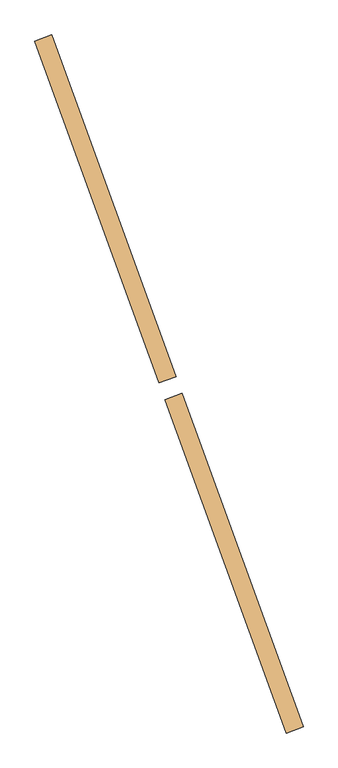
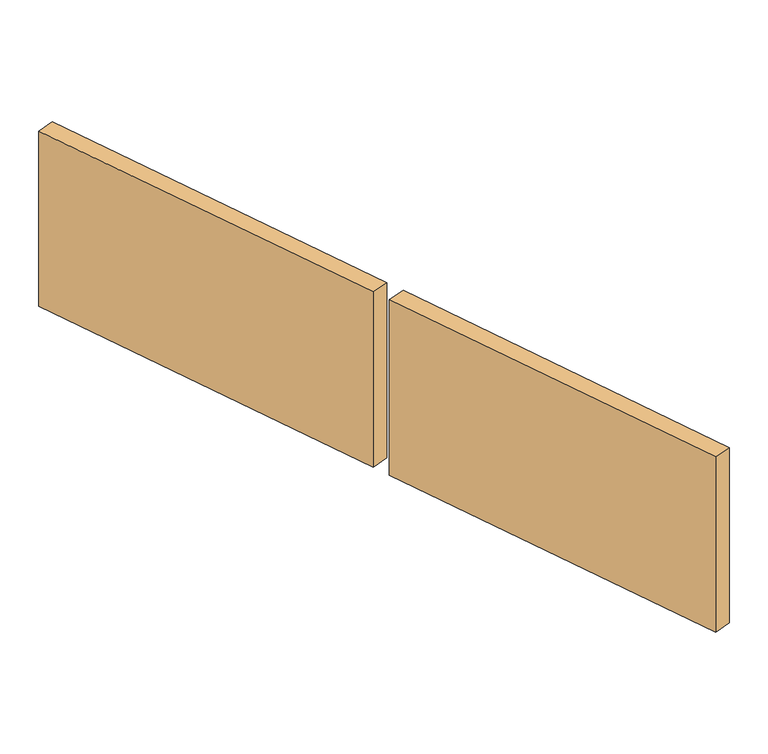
"""IFC4 building model written with IfcOpenShell, lengths in millimetres: door geometry, brystning ytterdør : brystning ytterdør."""

from ifc_helpers import new_model, si_unit, frame, origin, place, context, project, spatial, polyline, outline, extrude, source, transform, mapped, element, save


def door_c31702a9(model_context):
    return source(origin(), model_context, "Body", "SweptSolid", [
        extrude(outline(polyline([(15480.7002668, 26660.6245434), (15201.3838164, 27428.0401837), (15238.9715213, 27441.7209894), (15518.2879716, 26674.3053491), (15480.7002668, 26660.6245434)])), frame((0.0, 0.0, 2430.0), z_axis=(0.0, 0.0, 1.0), x_axis=(1.0, 0.0, 0.0)), (0.0, 0.0, 1.0), 400.0),
        extrude(outline(polyline([(15766.8571201, 25874.4150507), (15494.3810725, 26623.0368386), (15531.9687774, 26636.7176443), (15804.4448249, 25888.0958564), (15766.8571201, 25874.4150507)])), frame((0.0, 0.0, 2430.0), z_axis=(0.0, 0.0, 1.0), x_axis=(1.0, 0.0, 0.0)), (0.0, 0.0, 1.0), 400.0),
    ])


if __name__ == "__main__":
    model = new_model("IFC4")
    model_context = context("Model", 3, world=origin())
    ifc_project = project(units=[si_unit("LENGTHUNIT", "METRE", prefix="MILLI")], contexts=[model_context])
    site = spatial("IfcSite", under=ifc_project)
    building = spatial("IfcBuilding", under=site)
    placement = place(None, origin())
    door_shape = door_c31702a9(model_context)
    element("IfcDoor", 1, ObjectType="brystning ytterdør : brystning ytterdør", at=placement, inside=building, context=model_context, shape_type="MappedRepresentation", body=[
        mapped(door_shape, transform((0.0, 0.0, 0.0), x_axis=(1.0, 0.0, 0.0), y_axis=(0.0, 1.0, 0.0), z_axis=(0.0, 0.0, 1.0))),
    ])
    save(model, "model.ifc")
